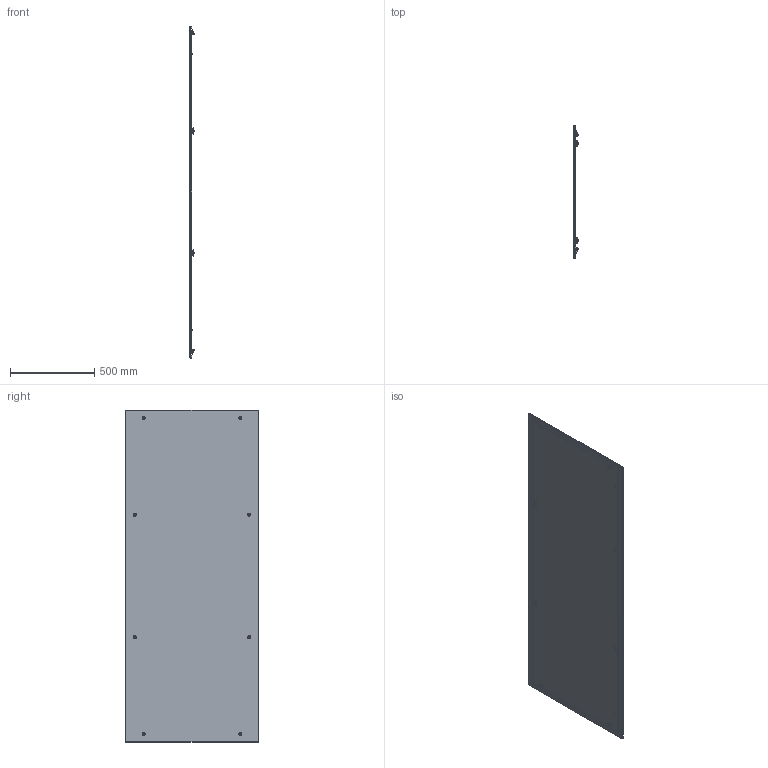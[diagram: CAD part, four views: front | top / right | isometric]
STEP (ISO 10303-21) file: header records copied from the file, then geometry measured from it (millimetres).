
FILE_DESCRIPTION(('STEP AP203'), '1');
FILE_NAME('3630 Ñåêöèîííàÿ ïàíåëü íà âèíòàõ (íà âñþ âûñîòó) ÑÁ', '', ('UNSPECIFIED'), ('UNSPECIFIED'), 'C3D Converter', 'C3D Toolkit', '');
FILE_SCHEMA(('CONFIG_CONTROL_DESIGN'));
Length unit declared in the file: millimetre
Products named in the file (10): 3630.200.80 СБ; 3631.200.80; 3632.200.80; 203-0655.61;  202-1103.15-00530; 3604; 3654
Assembly tree (46 placements, depth 3):
  3630.200.80 СБ
    3631.200.80
      3632.200.80
      (unnamed)  x2
    203-0655.61  x8
     202-1103.15-00530  x8
    3604  x8
      3654
      (unnamed)
    (unnamed)  x16
Bounding box: 31.95 x 791 x 1971 mm (x, y, z)
Volume: 2942092.2 mm3; surface area: 3533226.6 mm2
Topology: 52 solids, 52 shells, 1397 faces, 3444 edges, 2228 vertices
Faces by surface type: plane 759, cylinder 294, bspline 144, cone 114, torus 70, sphere 16
Full cylindrical faces by diameter (mm): 4 x8, 4.134 x8, 4.8 x16, 5 x8, 5.2 x16, 6 x2, 6.38 x8, 6.4 x8, 7.5 x16, 7.74 x8, 8.7 x8, 9.5 x16, 11.5 x4
Entity records: 12757 total; most frequent: CARTESIAN_POINT 4428, DIRECTION 1452, ORIENTED_EDGE 1256, EDGE_CURVE 628, AXIS2_PLACEMENT_3D 544, VERTEX_POINT 414, EDGE_LOOP 396, LINE 364
